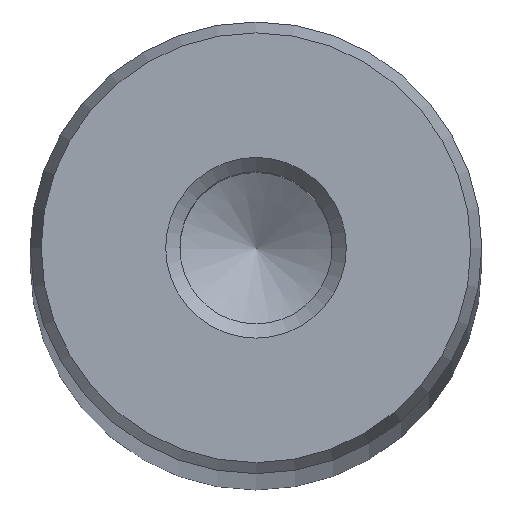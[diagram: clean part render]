
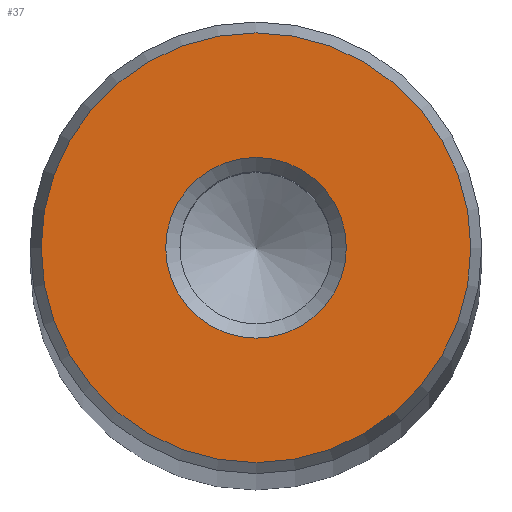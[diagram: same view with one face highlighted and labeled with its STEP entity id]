
A CAD part, top view. The second image highlights one B-rep face of the part: STEP entity #37.
In plain terms, the highlighted planar face has unit normal (0, 0, 1).
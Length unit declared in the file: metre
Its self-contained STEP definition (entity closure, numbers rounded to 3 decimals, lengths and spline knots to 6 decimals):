
#37 = ADVANCED_FACE( '', ( #80, #81 ), #82, .T. );
#80 = FACE_OUTER_BOUND( '', #139, .T. );
#81 = FACE_BOUND( '', #140, .T. );
#82 = PLANE( '', #141 );
#139 = EDGE_LOOP( '', ( #192 ) );
#140 = EDGE_LOOP( '', ( #193 ) );
#141 = AXIS2_PLACEMENT_3D( '', #194, #195, #196 );
#192 = ORIENTED_EDGE( '', *, *, #270, .T. );
#193 = ORIENTED_EDGE( '', *, *, #271, .T. );
#194 = CARTESIAN_POINT( '', ( 0., 0., 0.625 ) );
#195 = DIRECTION( '', ( 0., 0., 1. ) );
#196 = DIRECTION( '', ( 1., 0., 0. ) );
#270 = EDGE_CURVE( '', #297, #297, #298, .T. );
#271 = EDGE_CURVE( '', #299, #299, #300, .T. );
#297 = VERTEX_POINT( '', #334 );
#298 = CIRCLE( '', #335, 0.014272 );
#299 = VERTEX_POINT( '', #336 );
#300 = CIRCLE( '', #337, 0.006 );
#334 = CARTESIAN_POINT( '', ( 0.014272, 0., 0.625 ) );
#335 = AXIS2_PLACEMENT_3D( '', #370, #371, #372 );
#336 = CARTESIAN_POINT( '', ( 0.006, 0., 0.625 ) );
#337 = AXIS2_PLACEMENT_3D( '', #373, #374, #375 );
#370 = CARTESIAN_POINT( '', ( 0., 0., 0.625 ) );
#371 = DIRECTION( '', ( 0., 0., 1. ) );
#372 = DIRECTION( '', ( 1., 0., 0. ) );
#373 = CARTESIAN_POINT( '', ( 0., 0., 0.625 ) );
#374 = DIRECTION( '', ( 0., 0., -1. ) );
#375 = DIRECTION( '', ( 1., 0., 0. ) );
